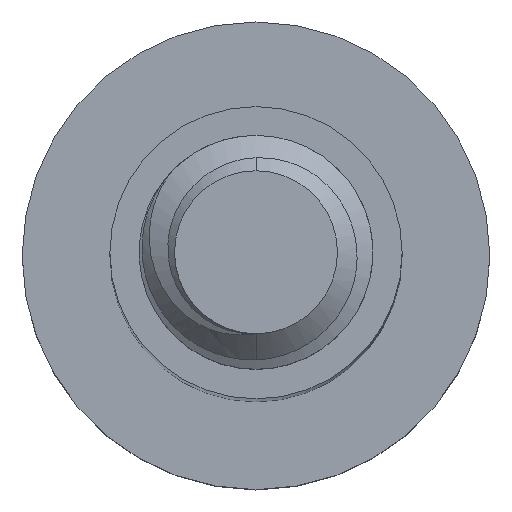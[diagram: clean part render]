
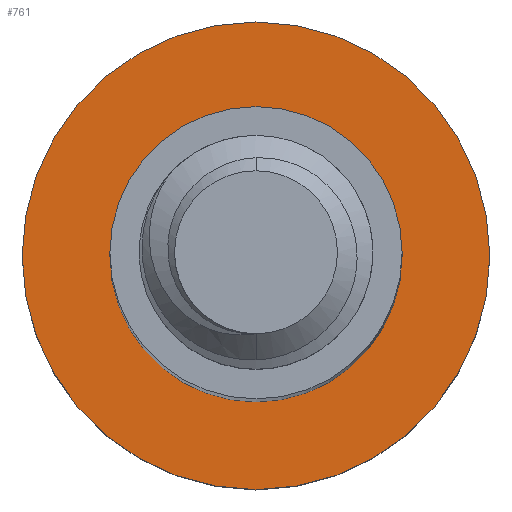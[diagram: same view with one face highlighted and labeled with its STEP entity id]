
A CAD part, top view. The second image highlights one B-rep face of the part: STEP entity #761.
In plain terms, the highlighted planar face has unit normal (0, 0, 1).
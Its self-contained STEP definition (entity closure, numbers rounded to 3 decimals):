
#4 = ORIENTED_EDGE ( 'NONE', *, *, #1022, .F. ) ;
#111 = AXIS2_PLACEMENT_3D ( 'NONE', #1029, #1704, #219 ) ;
#118 = VERTEX_POINT ( 'NONE', #917 ) ;
#139 = ORIENTED_EDGE ( 'NONE', *, *, #1395, .T. ) ;
#164 = DIRECTION ( 'NONE',  ( 0., 0., -1. ) ) ;
#185 = EDGE_LOOP ( 'NONE', ( #1174, #139 ) ) ;
#191 = AXIS2_PLACEMENT_3D ( 'NONE', #2080, #267, #765 ) ;
#219 = DIRECTION ( 'NONE',  ( -1., 0., 0. ) ) ;
#239 = EDGE_CURVE ( 'NONE', #635, #1764, #1511, .T. ) ;
#244 = FACE_BOUND ( 'NONE', #185, .T. ) ;
#251 = CARTESIAN_POINT ( 'NONE',  ( 2.5, 0., -30. ) ) ;
#267 = DIRECTION ( 'NONE',  ( 0., 0., -1. ) ) ;
#353 = CIRCLE ( 'NONE', #1175, 2.5 ) ;
#518 = DIRECTION ( 'NONE',  ( -1., 0., 0. ) ) ;
#593 = PLANE ( 'NONE',  #191 ) ;
#635 = VERTEX_POINT ( 'NONE', #1505 ) ;
#761 = ADVANCED_FACE ( 'NONE', ( #244, #896 ), #593, .F. ) ;
#765 = DIRECTION ( 'NONE',  ( -1., 0., 0. ) ) ;
#786 = EDGE_CURVE ( 'NONE', #118, #1491, #1781, .T. ) ;
#863 = AXIS2_PLACEMENT_3D ( 'NONE', #1202, #164, #1157 ) ;
#896 = FACE_OUTER_BOUND ( 'NONE', #1584, .T. ) ;
#917 = CARTESIAN_POINT ( 'NONE',  ( -2.5, 0., -30. ) ) ;
#951 = CARTESIAN_POINT ( 'NONE',  ( 0., 0., -30. ) ) ;
#964 = ORIENTED_EDGE ( 'NONE', *, *, #239, .F. ) ;
#970 = CARTESIAN_POINT ( 'NONE',  ( 0., 0., -30. ) ) ;
#1022 = EDGE_CURVE ( 'NONE', #1764, #635, #1450, .T. ) ;
#1029 = CARTESIAN_POINT ( 'NONE',  ( 0., 0., -30. ) ) ;
#1076 = AXIS2_PLACEMENT_3D ( 'NONE', #951, #1662, #518 ) ;
#1157 = DIRECTION ( 'NONE',  ( -1., 0., 0. ) ) ;
#1174 = ORIENTED_EDGE ( 'NONE', *, *, #786, .T. ) ;
#1175 = AXIS2_PLACEMENT_3D ( 'NONE', #970, #1312, #1999 ) ;
#1202 = CARTESIAN_POINT ( 'NONE',  ( 0., 0., -30. ) ) ;
#1312 = DIRECTION ( 'NONE',  ( 0., 0., -1. ) ) ;
#1395 = EDGE_CURVE ( 'NONE', #1491, #118, #353, .T. ) ;
#1450 = CIRCLE ( 'NONE', #863, 4. ) ;
#1491 = VERTEX_POINT ( 'NONE', #251 ) ;
#1505 = CARTESIAN_POINT ( 'NONE',  ( -4., 0., -30. ) ) ;
#1511 = CIRCLE ( 'NONE', #111, 4. ) ;
#1584 = EDGE_LOOP ( 'NONE', ( #4, #964 ) ) ;
#1662 = DIRECTION ( 'NONE',  ( 0., 0., -1. ) ) ;
#1704 = DIRECTION ( 'NONE',  ( 0., 0., -1. ) ) ;
#1764 = VERTEX_POINT ( 'NONE', #2007 ) ;
#1781 = CIRCLE ( 'NONE', #1076, 2.5 ) ;
#1999 = DIRECTION ( 'NONE',  ( -1., 0., 0. ) ) ;
#2007 = CARTESIAN_POINT ( 'NONE',  ( 4., 0., -30. ) ) ;
#2080 = CARTESIAN_POINT ( 'NONE',  ( 0., 0., -30. ) ) ;
